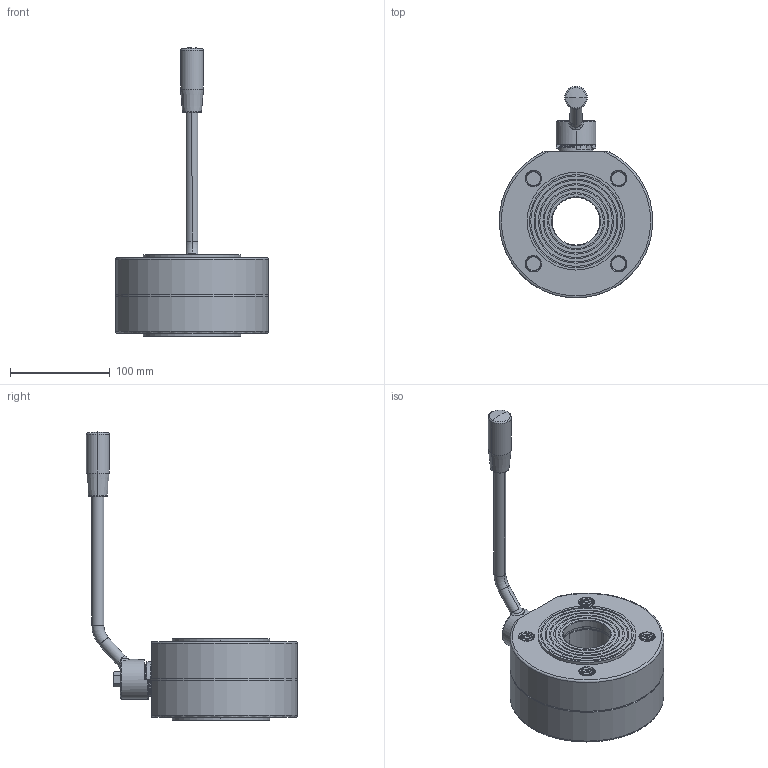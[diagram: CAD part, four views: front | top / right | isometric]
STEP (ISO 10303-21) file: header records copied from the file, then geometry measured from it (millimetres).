
FILE_DESCRIPTION((''),'2;1');
FILE_NAME('40015563810_SW0003','2024-10-02T14:26:26',('alfio.taboni'),('CDM Tecnoconsulting'),'CREO PARAMETRIC BY PTC INC, 2023374','CREO PARAMETRIC BY PTC INC, 2023374','');
FILE_SCHEMA(('CONFIG_CONTROL_DESIGN','SHAPE_APPEARANCE_LAYERS_GROUPS'));
Length unit declared in the file: millimetre
Products named in the file (1): 40015563810_SW0003
Bounding box: 153.65 x 211.83 x 289.5 mm (x, y, z)
Volume: 1264061.7 mm3; surface area: 172321 mm2
Topology: 1 solids, 1 shells, 1087 faces, 3000 edges, 1910 vertices
Faces by surface type: cylinder 427, plane 243, bspline 216, cone 106, torus 51, extrusion 38, sphere 6
Entity records: 141937 total; most frequent: CARTESIAN_POINT 102413, ORIENTED_EDGE 5940, DIRECTION 3957, PRESENTATION_STYLE_ASSIGNMENT 3805, STYLED_ITEM 3009, CURVE_STYLE 3008, EDGE_CURVE 2970, VERTEX_POINT 1910
